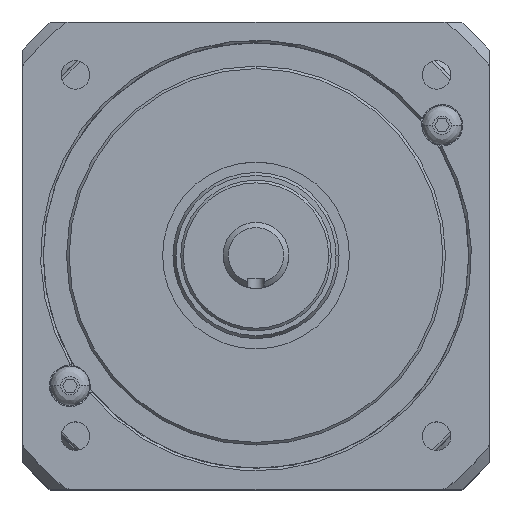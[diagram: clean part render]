
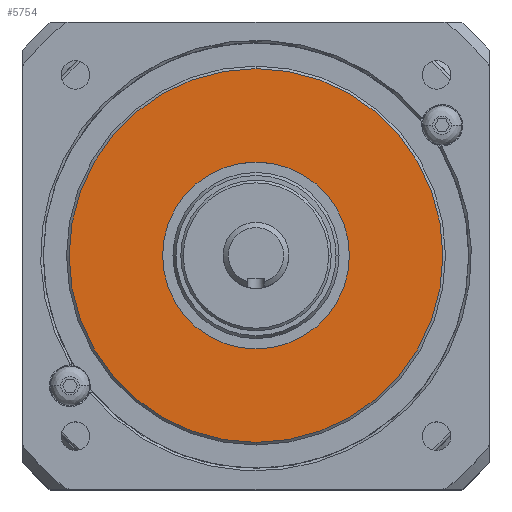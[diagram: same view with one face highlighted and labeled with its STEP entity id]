
A CAD part, top view. The second image highlights one B-rep face of the part: STEP entity #5754.
In plain terms, the highlighted planar face has unit normal (0, 0, 1).
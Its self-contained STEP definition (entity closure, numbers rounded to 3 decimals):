
#5535=CARTESIAN_POINT('',(0.,0.,61.7));
#5536=DIRECTION('',(0.,0.,-1.));
#5537=DIRECTION('',(-1.,0.,0.));
#5538=AXIS2_PLACEMENT_3D('',#5535,#5536,#5537);
#5540=CARTESIAN_POINT('',(0.,0.,61.7));
#5541=DIRECTION('',(0.,0.,-1.));
#5542=DIRECTION('',(1.,0.,0.));
#5543=AXIS2_PLACEMENT_3D('',#5540,#5541,#5542);
#5545=CARTESIAN_POINT('',(0.,0.,
61.7));
#5546=DIRECTION('',(0.,0.,1.));
#5547=DIRECTION('',(0.,1.,0.));
#5548=AXIS2_PLACEMENT_3D('',#5545,#5546,#5547);
#5550=CARTESIAN_POINT('',(0.,0.,
61.7));
#5551=DIRECTION('',(0.,0.,1.));
#5552=DIRECTION('',(0.,-1.,0.));
#5553=AXIS2_PLACEMENT_3D('',#5550,#5551,#5552);
#5693=CARTESIAN_POINT('',(-18.,0.,61.7));
#5694=CARTESIAN_POINT('',(18.,0.,61.7));
#5695=VERTEX_POINT('',#5693);
#5696=VERTEX_POINT('',#5694);
#5729=CARTESIAN_POINT('',(0.,36.012,61.7));
#5730=CARTESIAN_POINT('',(0.,-36.012,61.7));
#5731=VERTEX_POINT('',#5729);
#5732=VERTEX_POINT('',#5730);
#5737=CARTESIAN_POINT('',(0.,0.,61.7));
#5738=DIRECTION('',(0.,0.,1.));
#5739=DIRECTION('',(1.,0.,0.));
#5740=AXIS2_PLACEMENT_3D('',#5737,#5738,#5739);
#5741=PLANE('',#5740);
#5743=ORIENTED_EDGE('',*,*,#5742,.F.);
#5745=ORIENTED_EDGE('',*,*,#5744,.F.);
#5746=EDGE_LOOP('',(#5743,#5745));
#5747=FACE_OUTER_BOUND('',#5746,.F.);
#5749=ORIENTED_EDGE('',*,*,#5748,.F.);
#5751=ORIENTED_EDGE('',*,*,#5750,.F.);
#5752=EDGE_LOOP('',(#5749,#5751));
#5753=FACE_BOUND('',#5752,.F.);
#5754=ADVANCED_FACE('',(#5747,#5753),#5741,.T.);
#5539=CIRCLE('',#5538,18.);
#5544=CIRCLE('',#5543,18.);
#5549=CIRCLE('',#5548,36.012);
#5554=CIRCLE('',#5553,36.012);
#5742=EDGE_CURVE('',#5731,#5732,#5549,.T.);
#5744=EDGE_CURVE('',#5732,#5731,#5554,.T.);
#5748=EDGE_CURVE('',#5695,#5696,#5539,.T.);
#5750=EDGE_CURVE('',#5696,#5695,#5544,.T.);
